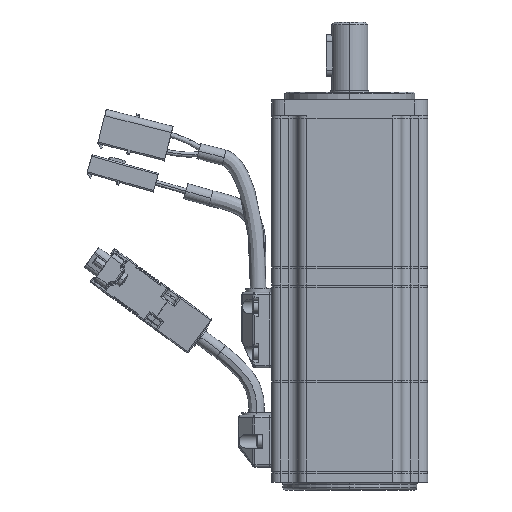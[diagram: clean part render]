
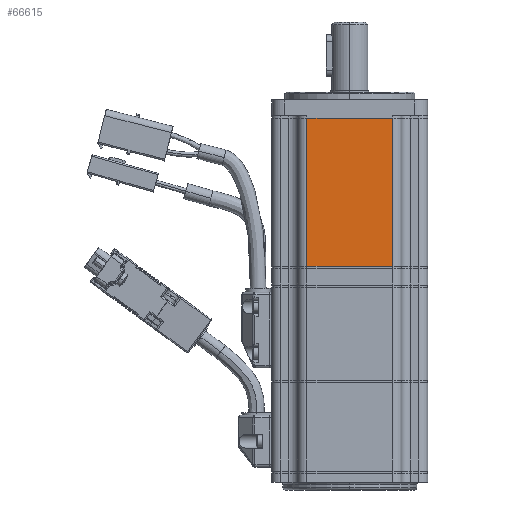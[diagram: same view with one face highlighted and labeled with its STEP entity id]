
A CAD part, left-side view. The second image highlights one B-rep face of the part: STEP entity #66615.
In plain terms, the highlighted planar face has unit normal (-1, 0, 0).
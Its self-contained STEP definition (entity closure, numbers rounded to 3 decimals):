
#2881 = ORIENTED_EDGE ( 'NONE', *, *, #29571, .T. ) ;
#4395 = FACE_OUTER_BOUND ( 'NONE', #15525, .T. ) ;
#11251 = EDGE_CURVE ( 'NONE', #65765, #28835, #45757, .T. ) ;
#13283 = DIRECTION ( 'NONE',  ( 0., 0., -1. ) ) ;
#15525 = EDGE_LOOP ( 'NONE', ( #62500, #20801, #55792, #2881 ) ) ;
#16221 = EDGE_CURVE ( 'NONE', #65765, #68725, #57503, .T. ) ;
#20801 = ORIENTED_EDGE ( 'NONE', *, *, #16221, .T. ) ;
#21277 = VECTOR ( 'NONE', #21580, 1000. ) ;
#21580 = DIRECTION ( 'NONE',  ( 0., 0., -1. ) ) ;
#27499 = EDGE_CURVE ( 'NONE', #68725, #84649, #49032, .T. ) ;
#28223 = CARTESIAN_POINT ( 'NONE',  ( -30., -20., -58. ) ) ;
#28823 = VECTOR ( 'NONE', #39134, 1000. ) ;
#28835 = VERTEX_POINT ( 'NONE', #66459 ) ;
#29571 = EDGE_CURVE ( 'NONE', #84649, #28835, #84294, .T. ) ;
#32555 = VECTOR ( 'NONE', #71999, 1000. ) ;
#35420 = CARTESIAN_POINT ( 'NONE',  ( -30., -16.5, -1. ) ) ;
#35851 = PLANE ( 'NONE',  #83129 ) ;
#37158 = CARTESIAN_POINT ( 'NONE',  ( -30., -20., -58. ) ) ;
#39134 = DIRECTION ( 'NONE',  ( 0., 1., 0. ) ) ;
#45757 = LINE ( 'NONE', #37158, #86153 ) ;
#49032 = LINE ( 'NONE', #92263, #28823 ) ;
#49079 = CARTESIAN_POINT ( 'NONE',  ( -30., -16.5, -58. ) ) ;
#51794 = DIRECTION ( 'NONE',  ( 0., 1., 0. ) ) ;
#55792 = ORIENTED_EDGE ( 'NONE', *, *, #27499, .T. ) ;
#57503 = LINE ( 'NONE', #49079, #32555 ) ;
#58743 = DIRECTION ( 'NONE',  ( 1., 0., 0. ) ) ;
#59449 = CARTESIAN_POINT ( 'NONE',  ( -30., 16.5, -58. ) ) ;
#62500 = ORIENTED_EDGE ( 'NONE', *, *, #11251, .F. ) ;
#65765 = VERTEX_POINT ( 'NONE', #69940 ) ;
#66459 = CARTESIAN_POINT ( 'NONE',  ( -30., 16.5, -58. ) ) ;
#66615 = ADVANCED_FACE ( 'NONE', ( #4395 ), #35851, .F. ) ;
#68725 = VERTEX_POINT ( 'NONE', #35420 ) ;
#69940 = CARTESIAN_POINT ( 'NONE',  ( -30., -16.5, -58. ) ) ;
#71999 = DIRECTION ( 'NONE',  ( 0., 0., 1. ) ) ;
#83129 = AXIS2_PLACEMENT_3D ( 'NONE', #28223, #58743, #13283 ) ;
#84294 = LINE ( 'NONE', #59449, #21277 ) ;
#84649 = VERTEX_POINT ( 'NONE', #93481 ) ;
#86153 = VECTOR ( 'NONE', #51794, 1000. ) ;
#92263 = CARTESIAN_POINT ( 'NONE',  ( -30., -20., -1. ) ) ;
#93481 = CARTESIAN_POINT ( 'NONE',  ( -30., 16.5, -1. ) ) ;
